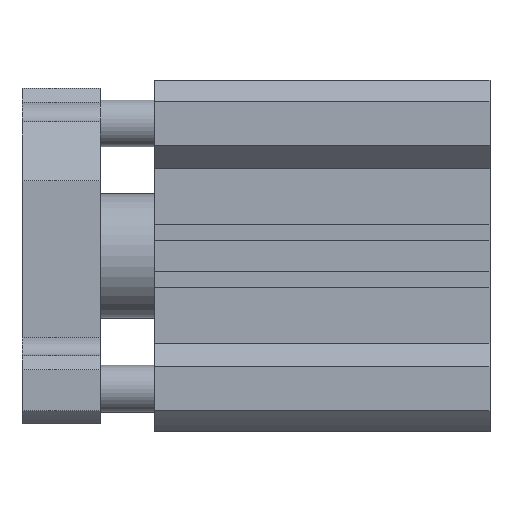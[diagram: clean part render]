
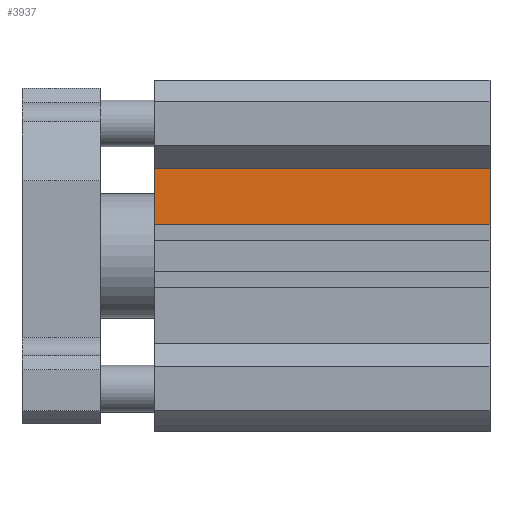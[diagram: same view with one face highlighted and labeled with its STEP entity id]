
A CAD part, front view. The second image highlights one B-rep face of the part: STEP entity #3937.
In plain terms, the highlighted planar face has unit normal (0, -1, 0).
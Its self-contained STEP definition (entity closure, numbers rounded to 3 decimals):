
#59 = EDGE_CURVE ( 'NONE', #1858, #2988, #1611, .T. ) ;
#276 = EDGE_CURVE ( 'NONE', #1858, #2511, #2391, .T. ) ;
#388 = PLANE ( 'NONE',  #3152 ) ;
#782 = CARTESIAN_POINT ( 'NONE',  ( 0., -19.5, 11.2 ) ) ;
#1199 = DIRECTION ( 'NONE',  ( -1., 0., 0. ) ) ;
#1221 = CARTESIAN_POINT ( 'NONE',  ( 43., -19.5, 11.2 ) ) ;
#1222 = CARTESIAN_POINT ( 'NONE',  ( 43., -19.5, 11.2 ) ) ;
#1494 = VECTOR ( 'NONE', #3452, 1000. ) ;
#1611 = LINE ( 'NONE', #1221, #3955 ) ;
#1858 = VERTEX_POINT ( 'NONE', #4771 ) ;
#1939 = CARTESIAN_POINT ( 'NONE',  ( 0., -19.5, 4. ) ) ;
#2380 = VECTOR ( 'NONE', #3972, 1000. ) ;
#2383 = DIRECTION ( 'NONE',  ( 1., 0., 0. ) ) ;
#2391 = LINE ( 'NONE', #1222, #2380 ) ;
#2511 = VERTEX_POINT ( 'NONE', #2546 ) ;
#2546 = CARTESIAN_POINT ( 'NONE',  ( 43., -19.5, 4. ) ) ;
#2631 = ORIENTED_EDGE ( 'NONE', *, *, #276, .F. ) ;
#2722 = LINE ( 'NONE', #782, #3235 ) ;
#2988 = VERTEX_POINT ( 'NONE', #4198 ) ;
#3084 = FACE_OUTER_BOUND ( 'NONE', #4611, .T. ) ;
#3101 = ORIENTED_EDGE ( 'NONE', *, *, #3335, .F. ) ;
#3152 = AXIS2_PLACEMENT_3D ( 'NONE', #3470, #3940, #2383 ) ;
#3235 = VECTOR ( 'NONE', #4751, 1000. ) ;
#3335 = EDGE_CURVE ( 'NONE', #2511, #5129, #3793, .T. ) ;
#3452 = DIRECTION ( 'NONE',  ( -1., 0., 0. ) ) ;
#3470 = CARTESIAN_POINT ( 'NONE',  ( 43., -19.5, 11.2 ) ) ;
#3588 = EDGE_CURVE ( 'NONE', #2988, #5129, #2722, .T. ) ;
#3793 = LINE ( 'NONE', #4554, #1494 ) ;
#3871 = ORIENTED_EDGE ( 'NONE', *, *, #3588, .T. ) ;
#3937 = ADVANCED_FACE ( 'NONE', ( #3084 ), #388, .F. ) ;
#3940 = DIRECTION ( 'NONE',  ( 0., 1., 0. ) ) ;
#3955 = VECTOR ( 'NONE', #1199, 1000. ) ;
#3972 = DIRECTION ( 'NONE',  ( 0., 0., -1. ) ) ;
#4198 = CARTESIAN_POINT ( 'NONE',  ( 0., -19.5, 11.2 ) ) ;
#4554 = CARTESIAN_POINT ( 'NONE',  ( 43., -19.5, 4. ) ) ;
#4611 = EDGE_LOOP ( 'NONE', ( #3871, #3101, #2631, #4979 ) ) ;
#4751 = DIRECTION ( 'NONE',  ( 0., 0., -1. ) ) ;
#4771 = CARTESIAN_POINT ( 'NONE',  ( 43., -19.5, 11.2 ) ) ;
#4979 = ORIENTED_EDGE ( 'NONE', *, *, #59, .T. ) ;
#5129 = VERTEX_POINT ( 'NONE', #1939 ) ;
